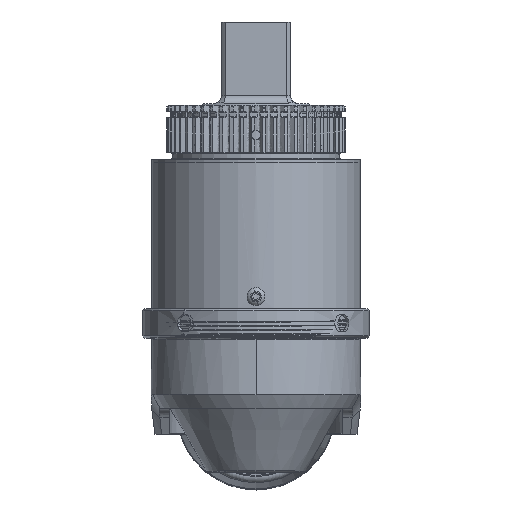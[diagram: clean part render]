
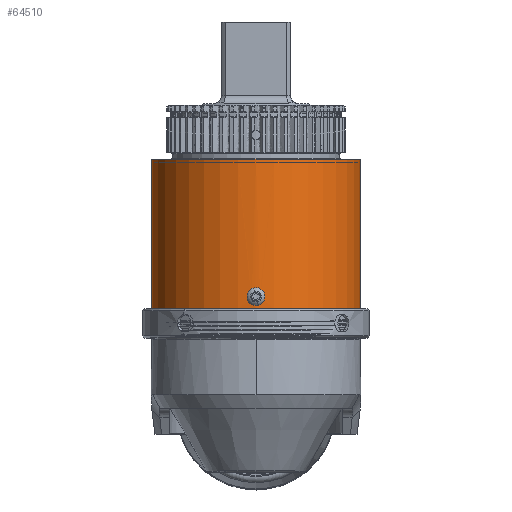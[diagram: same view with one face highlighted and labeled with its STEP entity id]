
A CAD part, top view. The second image highlights one B-rep face of the part: STEP entity #64510.
In plain terms, the highlighted cylindrical face has radius 38.735 mm (diameter 77.47 mm), a partial arc.
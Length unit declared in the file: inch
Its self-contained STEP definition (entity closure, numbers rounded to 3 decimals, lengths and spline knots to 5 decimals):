
#3343 = CARTESIAN_POINT ( 'NONE',  ( 0., 1.547, 17.65395 ) ) ;
#4618 = DIRECTION ( 'NONE',  ( 0., 1., 0. ) ) ;
#4818 = CARTESIAN_POINT ( 'NONE',  ( -0.01022, 1.54751, 17.65393 ) ) ;
#4905 = VERTEX_POINT ( 'NONE', #3343 ) ;
#5199 = CARTESIAN_POINT ( 'NONE',  ( -0.07551, 1.64522, 17.65208 ) ) ;
#5597 = CARTESIAN_POINT ( 'NONE',  ( -0.00512, 1.703, 17.65395 ) ) ;
#6491 = B_SPLINE_CURVE_WITH_KNOTS ( 'NONE', 3,
 ( #12200, #12173, #11944, #11920, #11816, #11793, #11705, #11584, #11459, #11437, #11347, #11226, #11090, #11064, #10973, #10843, #10706, #10595, #10459, #10327, #10298, #10102, #9966, #9941, #9856, #9728, #9590, #9472 ),
 .UNSPECIFIED., .F., .F.,
 ( 4, 2, 2, 2, 2, 2, 2, 2, 2, 2, 2, 2, 2, 4 ),
 ( 0.00619, 0.00697, 0.00774, 0.00813, 0.00852, 0.0089, 0.00929, 0.00968, 0.01007, 0.01045, 0.01084, 0.01123, 0.01161, 0.01239 ),
 .UNSPECIFIED. ) ;
#9472 = CARTESIAN_POINT ( 'NONE',  ( 0., 1.547, 17.65395 ) ) ;
#9590 = CARTESIAN_POINT ( 'NONE',  ( 0.01031, 1.547, 17.65395 ) ) ;
#9728 = CARTESIAN_POINT ( 'NONE',  ( 0.02055, 1.54907, 17.65384 ) ) ;
#9856 = CARTESIAN_POINT ( 'NONE',  ( 0.03462, 1.55492, 17.65357 ) ) ;
#9941 = CARTESIAN_POINT ( 'NONE',  ( 0.03917, 1.55735, 17.65346 ) ) ;
#9966 = CARTESIAN_POINT ( 'NONE',  ( 0.04768, 1.56306, 17.65321 ) ) ;
#10102 = CARTESIAN_POINT ( 'NONE',  ( 0.0516, 1.56629, 17.65308 ) ) ;
#10298 = CARTESIAN_POINT ( 'NONE',  ( 0.05879, 1.57349, 17.65282 ) ) ;
#10327 = CARTESIAN_POINT ( 'NONE',  ( 0.06209, 1.57751, 17.65269 ) ) ;
#10459 = CARTESIAN_POINT ( 'NONE',  ( 0.06773, 1.58599, 17.65245 ) ) ;
#10595 = CARTESIAN_POINT ( 'NONE',  ( 0.07013, 1.59047, 17.65234 ) ) ;
#10706 = CARTESIAN_POINT ( 'NONE',  ( 0.07404, 1.59993, 17.65216 ) ) ;
#10843 = CARTESIAN_POINT ( 'NONE',  ( 0.07553, 1.60488, 17.65208 ) ) ;
#10973 = CARTESIAN_POINT ( 'NONE',  ( 0.0775, 1.61485, 17.65198 ) ) ;
#11064 = CARTESIAN_POINT ( 'NONE',  ( 0.07801, 1.61993, 17.65196 ) ) ;
#11090 = CARTESIAN_POINT ( 'NONE',  ( 0.07799, 1.63022, 17.65196 ) ) ;
#11226 = CARTESIAN_POINT ( 'NONE',  ( 0.07749, 1.63529, 17.65198 ) ) ;
#11347 = CARTESIAN_POINT ( 'NONE',  ( 0.07549, 1.64526, 17.65208 ) ) ;
#11437 = CARTESIAN_POINT ( 'NONE',  ( 0.07399, 1.65022, 17.65216 ) ) ;
#11459 = CARTESIAN_POINT ( 'NONE',  ( 0.07007, 1.65965, 17.65234 ) ) ;
#11584 = CARTESIAN_POINT ( 'NONE',  ( 0.06767, 1.66413, 17.65245 ) ) ;
#11705 = CARTESIAN_POINT ( 'NONE',  ( 0.062, 1.67261, 17.65269 ) ) ;
#11793 = CARTESIAN_POINT ( 'NONE',  ( 0.0587, 1.67662, 17.65283 ) ) ;
#11816 = CARTESIAN_POINT ( 'NONE',  ( 0.0479, 1.68739, 17.65322 ) ) ;
#11920 = CARTESIAN_POINT ( 'NONE',  ( 0.03919, 1.6932, 17.65348 ) ) ;
#11944 = CARTESIAN_POINT ( 'NONE',  ( 0.02042, 1.70096, 17.65384 ) ) ;
#12173 = CARTESIAN_POINT ( 'NONE',  ( 0.01015, 1.703, 17.65395 ) ) ;
#12200 = CARTESIAN_POINT ( 'NONE',  ( -0.00003, 1.703, 17.65395 ) ) ;
#13613 = CARTESIAN_POINT ( 'NONE',  ( -0.02515, 1.55099, 17.65375 ) ) ;
#14003 = CARTESIAN_POINT ( 'NONE',  ( -0.07013, 1.65953, 17.65234 ) ) ;
#18130 = CARTESIAN_POINT ( 'NONE',  ( 1.525, 1.45, 16.12895 ) ) ;
#22394 = CARTESIAN_POINT ( 'NONE',  ( 1.525, 1.45, 16.12895 ) ) ;
#22409 = CARTESIAN_POINT ( 'NONE',  ( -0.03907, 1.5573, 17.65346 ) ) ;
#22764 = CARTESIAN_POINT ( 'NONE',  ( -0.06204, 1.67255, 17.65269 ) ) ;
#22832 = VERTEX_POINT ( 'NONE', #35784 ) ;
#23613 = CIRCLE ( 'NONE', #50006, 1.525 ) ;
#26193 = EDGE_LOOP ( 'NONE', ( #108847, #67591, #75709, #48031 ) ) ;
#26577 = EDGE_CURVE ( 'NONE', #65890, #43123, #65801, .T. ) ;
#29544 = CYLINDRICAL_SURFACE ( 'NONE', #109926, 1.525 ) ;
#30704 = DIRECTION ( 'NONE',  ( -1., 0., 0. ) ) ;
#30770 = CARTESIAN_POINT ( 'NONE',  ( 0., 1.547, 17.65395 ) ) ;
#30835 = DIRECTION ( 'NONE',  ( 0., -1., 0. ) ) ;
#30862 = CARTESIAN_POINT ( 'NONE',  ( 0., 3.6225, 16.12895 ) ) ;
#31146 = CARTESIAN_POINT ( 'NONE',  ( -0.05156, 1.56625, 17.65308 ) ) ;
#31549 = CARTESIAN_POINT ( 'NONE',  ( -0.05154, 1.68377, 17.65309 ) ) ;
#31654 = DIRECTION ( 'NONE',  ( 0., 1., 0. ) ) ;
#35784 = CARTESIAN_POINT ( 'NONE',  ( -0.00003, 1.703, 17.65395 ) ) ;
#39999 = CARTESIAN_POINT ( 'NONE',  ( -0.06816, 1.58575, 17.65243 ) ) ;
#40354 = CARTESIAN_POINT ( 'NONE',  ( -0.03915, 1.69265, 17.65346 ) ) ;
#40772 = VERTEX_POINT ( 'NONE', #18130 ) ;
#40821 = DIRECTION ( 'NONE',  ( 0., -1., 0. ) ) ;
#43123 = VERTEX_POINT ( 'NONE', #62986 ) ;
#44414 = ORIENTED_EDGE ( 'NONE', *, *, #100020, .T. ) ;
#48004 = LINE ( 'NONE', #22394, #83737 ) ;
#48031 = ORIENTED_EDGE ( 'NONE', *, *, #63565, .T. ) ;
#48741 = CARTESIAN_POINT ( 'NONE',  ( -0.07799, 1.61478, 17.65196 ) ) ;
#49139 = CARTESIAN_POINT ( 'NONE',  ( -0.02514, 1.69901, 17.65375 ) ) ;
#50006 = AXIS2_PLACEMENT_3D ( 'NONE', #93327, #40821, #102058 ) ;
#54973 = CARTESIAN_POINT ( 'NONE',  ( -1.525, 1.45, 16.12895 ) ) ;
#55628 = FACE_BOUND ( 'NONE', #85318, .T. ) ;
#56785 = EDGE_CURVE ( 'NONE', #40772, #66102, #48004, .T. ) ;
#57019 = CARTESIAN_POINT ( 'NONE',  ( 0., 1.45, 16.12895 ) ) ;
#57634 = CARTESIAN_POINT ( 'NONE',  ( -0.0775, 1.63521, 17.65198 ) ) ;
#58014 = CARTESIAN_POINT ( 'NONE',  ( -0.01029, 1.70249, 17.65393 ) ) ;
#61899 = EDGE_CURVE ( 'NONE', #22832, #4905, #6491, .T. ) ;
#62986 = CARTESIAN_POINT ( 'NONE',  ( -1.525, 3.6225, 16.12895 ) ) ;
#63565 = EDGE_CURVE ( 'NONE', #66102, #43123, #65375, .T. ) ;
#64510 = ADVANCED_FACE ( 'NONE', ( #104890, #55628 ), #29544, .T. ) ;
#65375 = CIRCLE ( 'NONE', #111770, 1.525 ) ;
#65801 = LINE ( 'NONE', #108305, #86387 ) ;
#65890 = VERTEX_POINT ( 'NONE', #54973 ) ;
#66102 = VERTEX_POINT ( 'NONE', #109945 ) ;
#66108 = CARTESIAN_POINT ( 'NONE',  ( -0.02019, 1.54949, 17.65383 ) ) ;
#66489 = CARTESIAN_POINT ( 'NONE',  ( -0.07403, 1.65008, 17.65216 ) ) ;
#66865 = CARTESIAN_POINT ( 'NONE',  ( -0.00003, 1.703, 17.65395 ) ) ;
#67591 = ORIENTED_EDGE ( 'NONE', *, *, #99664, .F. ) ;
#67686 = ORIENTED_EDGE ( 'NONE', *, *, #61899, .T. ) ;
#71728 = DIRECTION ( 'NONE',  ( 1., 0., 0. ) ) ;
#74992 = CARTESIAN_POINT ( 'NONE',  ( -0.03459, 1.5549, 17.65357 ) ) ;
#75393 = CARTESIAN_POINT ( 'NONE',  ( -0.06769, 1.66409, 17.65245 ) ) ;
#75709 = ORIENTED_EDGE ( 'NONE', *, *, #56785, .T. ) ;
#83737 = VECTOR ( 'NONE', #31654, 39.37008 ) ;
#83747 = CARTESIAN_POINT ( 'NONE',  ( -0.04755, 1.56296, 17.65322 ) ) ;
#84123 = CARTESIAN_POINT ( 'NONE',  ( -0.05882, 1.67648, 17.65282 ) ) ;
#85318 = EDGE_LOOP ( 'NONE', ( #44414, #67686 ) ) ;
#86387 = VECTOR ( 'NONE', #108569, 39.37008 ) ;
#92466 = CARTESIAN_POINT ( 'NONE',  ( -0.06235, 1.57705, 17.65269 ) ) ;
#92842 = CARTESIAN_POINT ( 'NONE',  ( -0.0476, 1.687, 17.65322 ) ) ;
#93327 = CARTESIAN_POINT ( 'NONE',  ( 0., 1.45, 16.12895 ) ) ;
#99664 = EDGE_CURVE ( 'NONE', #40772, #65890, #23613, .T. ) ;
#100020 = EDGE_CURVE ( 'NONE', #4905, #22832, #113443, .T. ) ;
#100825 = CARTESIAN_POINT ( 'NONE',  ( -0.00515, 1.547, 17.65395 ) ) ;
#101211 = CARTESIAN_POINT ( 'NONE',  ( -0.07595, 1.60452, 17.65207 ) ) ;
#101598 = CARTESIAN_POINT ( 'NONE',  ( -0.0346, 1.6951, 17.65357 ) ) ;
#102058 = DIRECTION ( 'NONE',  ( -1., 0., 0. ) ) ;
#104890 = FACE_OUTER_BOUND ( 'NONE', #26193, .T. ) ;
#108305 = CARTESIAN_POINT ( 'NONE',  ( -1.525, 1.45, 16.12895 ) ) ;
#108569 = DIRECTION ( 'NONE',  ( 0., 1., 0. ) ) ;
#108847 = ORIENTED_EDGE ( 'NONE', *, *, #26577, .F. ) ;
#109926 = AXIS2_PLACEMENT_3D ( 'NONE', #57019, #4618, #71728 ) ;
#109945 = CARTESIAN_POINT ( 'NONE',  ( 1.525, 3.6225, 16.12895 ) ) ;
#109948 = CARTESIAN_POINT ( 'NONE',  ( -0.078, 1.63005, 17.65196 ) ) ;
#110311 = CARTESIAN_POINT ( 'NONE',  ( -0.02028, 1.70049, 17.65383 ) ) ;
#111770 = AXIS2_PLACEMENT_3D ( 'NONE', #30862, #30835, #30704 ) ;
#113443 = B_SPLINE_CURVE_WITH_KNOTS ( 'NONE', 3,
 ( #30770, #100825, #4818, #66108, #13613, #74992, #22409, #83747, #31146, #92466, #39999, #101211, #48741, #109948, #57634, #5199, #66489, #14003, #75393, #22764, #84123, #31549, #92842, #40354, #101598, #49139, #110311, #58014, #5597, #66865 ),
 .UNSPECIFIED., .F., .F.,
 ( 4, 2, 2, 2, 2, 2, 2, 2, 2, 2, 2, 2, 2, 2, 4 ),
 ( 0., 0.00039, 0.00077, 0.00116, 0.00155, 0.00232, 0.0031, 0.00348, 0.00387, 0.00426, 0.00465, 0.00503, 0.00542, 0.00581, 0.00619 ),
 .UNSPECIFIED. ) ;
